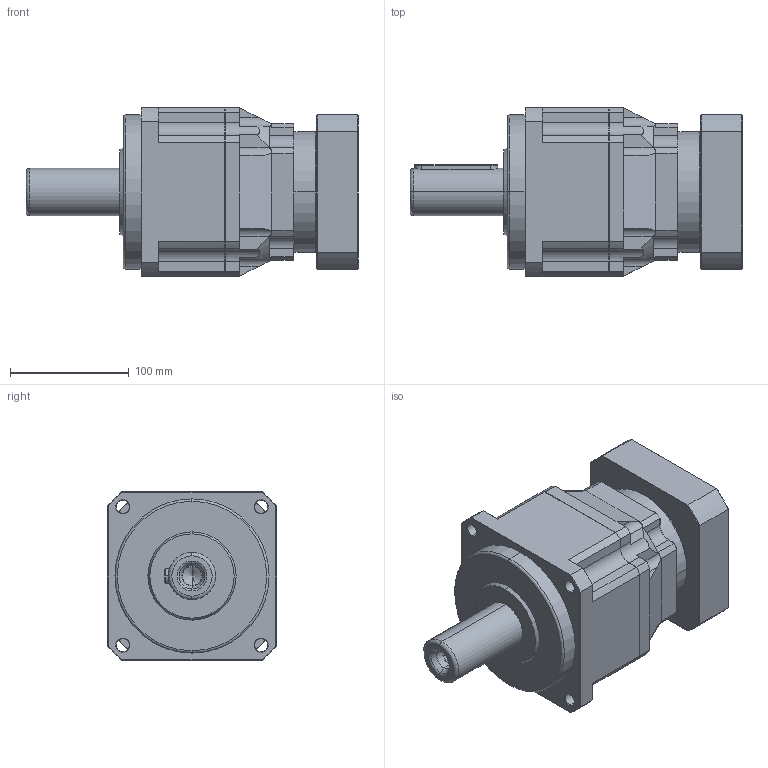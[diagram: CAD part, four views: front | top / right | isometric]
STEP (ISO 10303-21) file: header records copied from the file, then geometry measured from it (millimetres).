
FILE_DESCRIPTION (( 'STEP AP203' ), '1' );
FILE_NAME ('TB142-L2-24-110-145-M8-64.5-12.STEP', '2021-01-18T03:17:39', ( '' ), ( '' ), 'SwSTEP 2.0', 'SolidWorks 2017', '' );
FILE_SCHEMA (( 'CONFIG_CONTROL_DESIGN' ));
Length unit declared in the file: millimetre
Products named in the file (1): TB142-L2-24-110-145-M8-64.5-12
Bounding box: 280 x 142 x 142 mm (x, y, z)
Volume: 2980886.9 mm3; surface area: 200359.8 mm2
Topology: 4 solids, 4 shells, 382 faces, 929 edges, 563 vertices
Faces by surface type: plane 159, cylinder 115, cone 98, torus 10
Entity records: 11652 total; most frequent: CARTESIAN_POINT 2721, DIRECTION 1869, ORIENTED_EDGE 1838, EDGE_CURVE 919, AXIS2_PLACEMENT_3D 705, VERTEX_POINT 563, VECTOR 459, LINE 459
